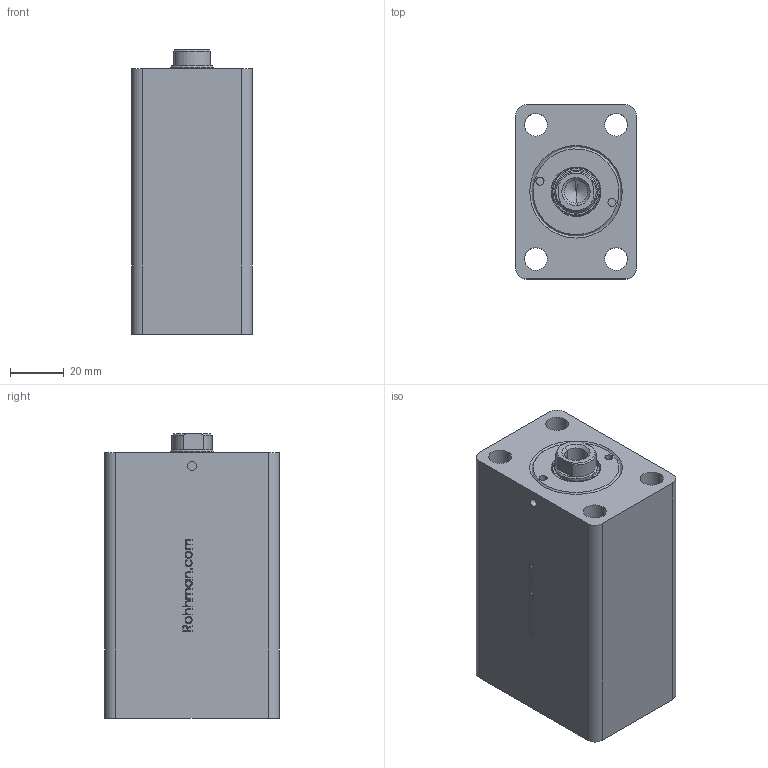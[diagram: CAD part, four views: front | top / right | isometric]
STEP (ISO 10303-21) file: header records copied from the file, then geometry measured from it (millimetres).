
FILE_DESCRIPTION (( 'STEP AP214' ), '1' );
FILE_NAME ('KBZ_02_25_16_55.STEP', '2022-09-03T18:05:22', ( '' ), ( '' ), 'SwSTEP 2.0', 'SolidWorks 2021', '' );
FILE_SCHEMA (( 'AUTOMOTIVE_DESIGN' ));
Length unit declared in the file: millimetre
Products named in the file (9): KBZ_03_25_16_ON_KAPAK; KO-22X2_5; KBZ_02_25_16_55; K06-16X22_8X3_1X4 (K016_3); K22-16X20_5X5; KBZ_02_25_25_GOVDE_WEB; KBZ_03_25_16_烰_KAPAK; 16_18_PAP_16_18_5_PAP; 16_K_MIL_WEB
Assembly tree (8 placements, depth 3):
  KBZ_02_25_16_55
    KBZ_02_25_25_GOVDE_WEB
    16_K_MIL_WEB
    KBZ_03_25_16_烰_KAPAK
      KBZ_03_25_16_ON_KAPAK
      K22-16X20_5X5
      K06-16X22_8X3_1X4 (K016_3)
      KO-22X2_5
      16_18_PAP_16_18_5_PAP
Bounding box: 45 x 65 x 106 mm (x, y, z)
Volume: 245329.3 mm3; surface area: 55803.7 mm2
Topology: 7 solids, 7 shells, 387 faces, 920 edges, 580 vertices
Faces by surface type: bspline 130, plane 117, cylinder 79, cone 53, torus 8
Entity records: 16653 total; most frequent: CARTESIAN_POINT 8020, ORIENTED_EDGE 1836, DIRECTION 1410, EDGE_CURVE 918, VERTEX_POINT 580, AXIS2_PLACEMENT_3D 494, EDGE_LOOP 444, LINE 422
